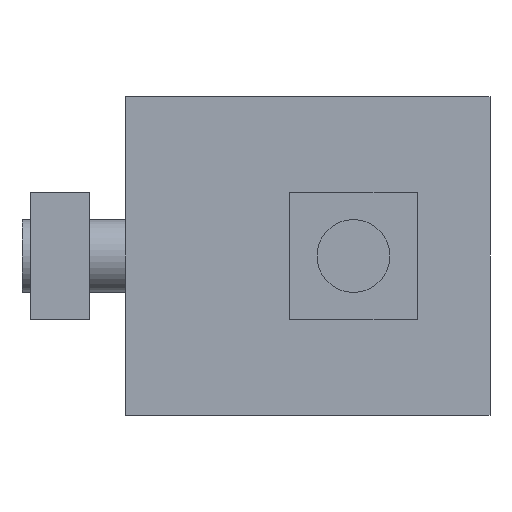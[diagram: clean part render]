
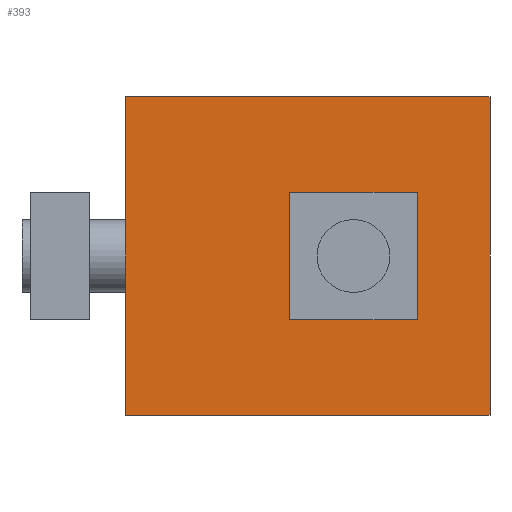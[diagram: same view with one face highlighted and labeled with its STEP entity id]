
A CAD part, front view. The second image highlights one B-rep face of the part: STEP entity #393.
In plain terms, the highlighted planar face has unit normal (0, -1, 0).
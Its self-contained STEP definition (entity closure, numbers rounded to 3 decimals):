
#193=CARTESIAN_POINT('',(29.5,0.,0.0));
#194=VERTEX_POINT('',#193);
#195=CARTESIAN_POINT('',(25.,0.0,0.0));
#196=DIRECTION('',(0.0,1.0,0.0));
#197=DIRECTION('',(1.0,0.0,0.0));
#198=AXIS2_PLACEMENT_3D('',#195,#196,#197);
#199=CIRCLE('',#198,4.5);
#200=EDGE_CURVE('',#194,#194,#199,.T.);
#244=CARTESIAN_POINT('',(40.,0.,-17.5));
#245=VERTEX_POINT('',#244);
#252=CARTESIAN_POINT('',(0.0,0.0,-17.5));
#253=VERTEX_POINT('',#252);
#254=CARTESIAN_POINT('',(0.0,0.0,-17.5));
#255=DIRECTION('',(1.0,0.0,0.0));
#256=VECTOR('',#255,40.);
#257=LINE('',#254,#256);
#258=EDGE_CURVE('',#253,#245,#257,.T.);
#348=CARTESIAN_POINT('',(40.,0.,17.5));
#349=VERTEX_POINT('',#348);
#356=CARTESIAN_POINT('',(40.,0.,17.5));
#357=DIRECTION('',(0.0,0.0,-1.0));
#358=VECTOR('',#357,35.);
#359=LINE('',#356,#358);
#360=EDGE_CURVE('',#349,#245,#359,.T.);
#367=CARTESIAN_POINT('',(40.,0.,0.0));
#368=DIRECTION('',(0.0,-1.0,0.0));
#369=DIRECTION('',(0.0,0.0,-1.0));
#370=AXIS2_PLACEMENT_3D('',#367,#368,#369);
#371=PLANE('',#370);
#372=CARTESIAN_POINT('',(0.0,0.0,17.5));
#373=VERTEX_POINT('',#372);
#374=CARTESIAN_POINT('',(40.,0.,17.5));
#375=DIRECTION('',(-1.0,0.0,0.0));
#376=VECTOR('',#375,40.);
#377=LINE('',#374,#376);
#378=EDGE_CURVE('',#349,#373,#377,.T.);
#379=ORIENTED_EDGE('',*,*,#378,.T.);
#380=CARTESIAN_POINT('',(0.0,0.0,17.5));
#381=DIRECTION('',(0.0,0.0,-1.0));
#382=VECTOR('',#381,35.);
#383=LINE('',#380,#382);
#384=EDGE_CURVE('',#373,#253,#383,.T.);
#385=ORIENTED_EDGE('',*,*,#384,.T.);
#386=ORIENTED_EDGE('',*,*,#258,.T.);
#387=ORIENTED_EDGE('',*,*,#360,.F.);
#388=EDGE_LOOP('',(#379,#385,#386,#387));
#389=FACE_OUTER_BOUND('',#388,.T.);
#390=ORIENTED_EDGE('',*,*,#200,.T.);
#391=EDGE_LOOP('',(#390));
#392=FACE_BOUND('',#391,.T.);
#393=ADVANCED_FACE('',(#389,#392),#371,.T.);
